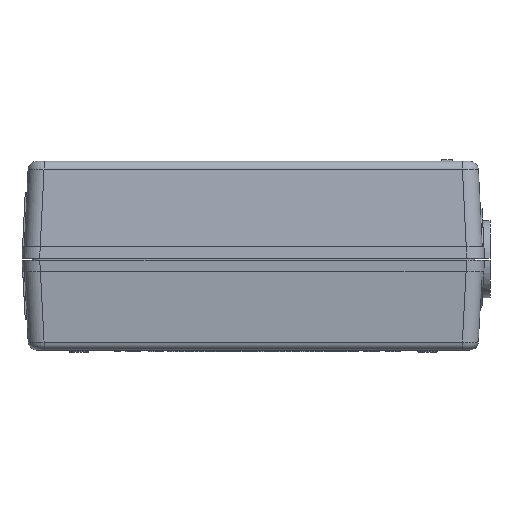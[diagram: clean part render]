
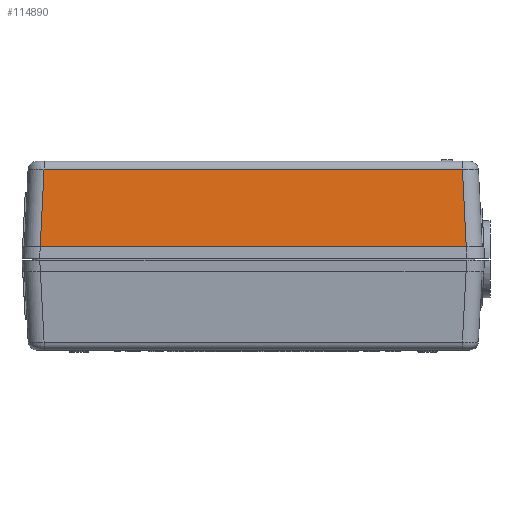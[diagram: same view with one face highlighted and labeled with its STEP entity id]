
A CAD part, front view. The second image highlights one B-rep face of the part: STEP entity #114890.
In plain terms, the highlighted planar face has unit normal (0, -0.998, 0.07).
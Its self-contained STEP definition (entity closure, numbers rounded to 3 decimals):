
#29120=CARTESIAN_POINT('',(-36.658,-68.999,2.));
#29130=VERTEX_POINT('',#29120);
#29160=CARTESIAN_POINT('',(36.658,-68.999,2.));
#29170=DIRECTION('',(-1.,0.,0.));
#29180=VECTOR('',#29170,1.);
#29190=LINE('',#29160,#29180);
#29200=CARTESIAN_POINT('',(36.658,-68.999,2.));
#29210=VERTEX_POINT('',#29200);
#29220=EDGE_CURVE('',#29210,#29130,#29190,.T.);
#114250=CARTESIAN_POINT('',(36.658,-68.999,
2.));
#114260=DIRECTION('',(-0.049,0.07,
0.996));
#114270=VECTOR('',#114260,1.);
#114280=LINE('',#114250,#114270);
#114290=CARTESIAN_POINT('',(36.008,-68.068,
15.305));
#114300=VERTEX_POINT('',#114290);
#114310=EDGE_CURVE('',#29210,#114300,#114280,.T.);
#114660=CARTESIAN_POINT('',(-39.5,-69.139,0.));
#114670=DIRECTION('',(0.,-0.998,0.07));
#114680=DIRECTION('',(0.,-0.07,-0.998));
#114690=AXIS2_PLACEMENT_3D('',#114660,#114670,#114680);
#114700=PLANE('',#114690);
#114710=ORIENTED_EDGE('',*,*,#29220,.F.);
#114720=CARTESIAN_POINT('',(-36.008,-68.068,
15.305));
#114730=DIRECTION('',(-0.049,-0.07,
-0.996));
#114740=VECTOR('',#114730,1.);
#114750=LINE('',#114720,#114740);
#114760=CARTESIAN_POINT('',(-36.008,-68.068,
15.305));
#114770=VERTEX_POINT('',#114760);
#114780=EDGE_CURVE('',#114770,#29130,#114750,.T.);
#114790=ORIENTED_EDGE('',*,*,#114780,.T.);
#114800=CARTESIAN_POINT('',(-36.008,-68.068,
15.305));
#114810=DIRECTION('',(1.,0.,0.));
#114820=VECTOR('',#114810,1.);
#114830=LINE('',#114800,#114820);
#114840=EDGE_CURVE('',#114770,#114300,#114830,.T.);
#114850=ORIENTED_EDGE('',*,*,#114840,.F.);
#114860=ORIENTED_EDGE('',*,*,#114310,.T.);
#114870=EDGE_LOOP('',(#114860,#114850,#114790,#114710));
#114880=FACE_OUTER_BOUND('',#114870,.T.);
#114890=ADVANCED_FACE('',(#114880),#114700,.T.);
